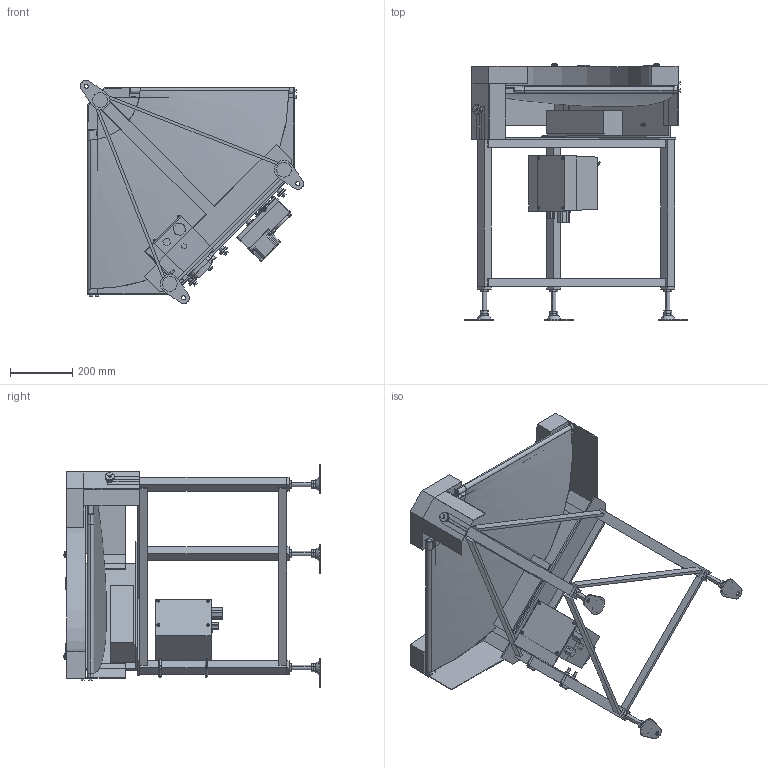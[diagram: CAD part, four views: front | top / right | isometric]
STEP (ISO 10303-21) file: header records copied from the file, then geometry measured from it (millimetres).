
FILE_DESCRIPTION( (''), '2;1');
FILE_NAME ('GFBC-HS-309-400-90°-R-DC-30.stp','2025-01-31T18:14:07',(''),(''),'spGate 20.6.2 (****-****-****-****)','','');
FILE_SCHEMA (('AUTOMOTIVE_DESIGN'));
Length unit declared in the file: millimetre
Products named in the file (65): NewModel; TEMP_X_T-prt0; TEMP_X_T-prt1; TEMP_X_T-prt2; TEMP_X_T-prt3; TEMP_X_T-prt4; TEMP_X_T-prt5; TEMP_X_T-prt6; TEMP_X_T-prt7; TEMP_X_T-prt8; TEMP_X_T-prt9; TEMP_X_T-prt10; TEMP_X_T-prt11; TEMP_X_T-prt12; TEMP_X_T-prt13; TEMP_X_T-prt14; TEMP_X_T-prt15; TEMP_X_T-prt16; TEMP_X_T-prt17; TEMP_X_T-prt18; TEMP_X_T-prt19; TEMP_X_T-prt20; TEMP_X_T-prt21; TEMP_X_T-prt22; TEMP_X_T-prt23; TEMP_X_T-prt24; TEMP_X_T-prt25; TEMP_X_T-prt26; TEMP_X_T-prt27; TEMP_X_T-prt28; TEMP_X_T-prt29; TEMP_X_T-prt30; TEMP_X_T-prt31; TEMP_X_T-prt32; TEMP_X_T-prt33; TEMP_X_T-prt34; TEMP_X_T-prt35; TEMP_X_T-prt36; TEMP_X_T-prt37; TEMP_X_T-prt38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
Assembly tree (64 placements, depth 2):
  NewModel
    TEMP_X_T-prt0
    TEMP_X_T-prt1
    TEMP_X_T-prt2
    TEMP_X_T-prt3
    TEMP_X_T-prt4
    TEMP_X_T-prt5
    TEMP_X_T-prt6
    TEMP_X_T-prt7
    TEMP_X_T-prt8
    TEMP_X_T-prt9
    TEMP_X_T-prt10
    TEMP_X_T-prt11
    TEMP_X_T-prt12
    TEMP_X_T-prt13
    TEMP_X_T-prt14
    TEMP_X_T-prt15
    TEMP_X_T-prt16
    TEMP_X_T-prt17
    TEMP_X_T-prt18
    TEMP_X_T-prt19
    TEMP_X_T-prt20
    TEMP_X_T-prt21
    TEMP_X_T-prt22
    TEMP_X_T-prt23
    TEMP_X_T-prt24
    TEMP_X_T-prt25
    TEMP_X_T-prt26
    TEMP_X_T-prt27
    TEMP_X_T-prt28
    TEMP_X_T-prt29
    TEMP_X_T-prt30
    TEMP_X_T-prt31
    TEMP_X_T-prt32
    TEMP_X_T-prt33
    TEMP_X_T-prt34
    TEMP_X_T-prt35
    TEMP_X_T-prt36
    TEMP_X_T-prt37
    TEMP_X_T-prt38
    TEMP_X_T-prt39
    TEMP_X_T-prt40
    TEMP_X_T-prt41
    TEMP_X_T-prt42
    TEMP_X_T-prt43
    TEMP_X_T-prt44
    TEMP_X_T-prt45
    TEMP_X_T-prt46
    TEMP_X_T-prt47
    TEMP_X_T-prt48
    TEMP_X_T-prt49
    TEMP_X_T-prt50
    TEMP_X_T-prt51
    TEMP_X_T-prt52
    TEMP_X_T-prt53
    TEMP_X_T-prt54
    TEMP_X_T-prt55
    TEMP_X_T-prt56
    TEMP_X_T-prt57
    TEMP_X_T-prt58
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Bounding box: 719.17 x 827.92 x 719.17 mm (x, y, z)
Volume: 19856908.5 mm3; surface area: 4101466 mm2
Topology: 64 solids, 64 shells, 1415 faces, 3301 edges, 2104 vertices
Faces by surface type: plane 871, cylinder 406, bspline 134, sphere 4
Entity records: 74350 total; most frequent: CARTESIAN_POINT 12797, DIRECTION 6858, ORIENTED_EDGE 6548, COLOUR_RGB 4753, PRESENTATION_STYLE_ASSIGNMENT 4753, STYLED_ITEM 4753, EDGE_CURVE 3274, DRAUGHTING_PRE_DEFINED_CURVE_FONT 3274
